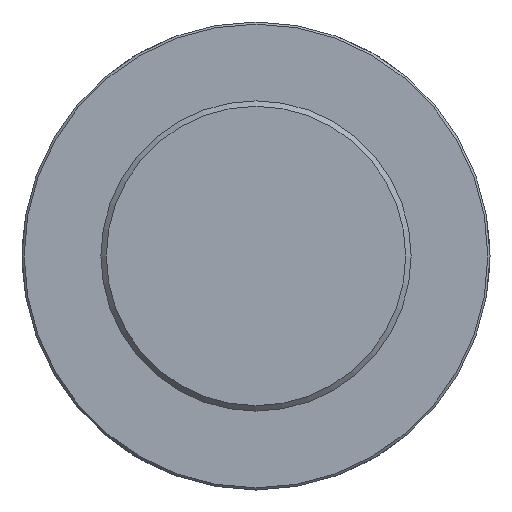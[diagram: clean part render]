
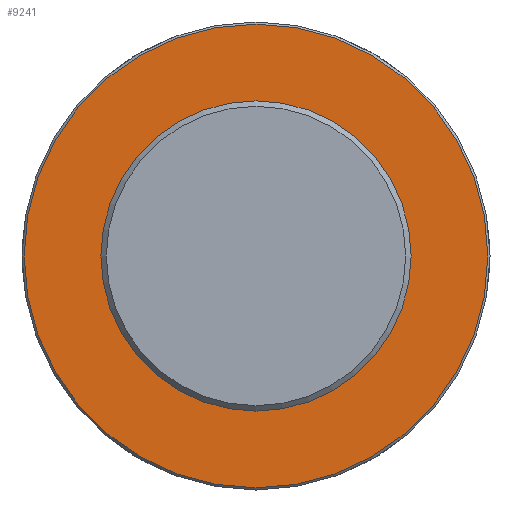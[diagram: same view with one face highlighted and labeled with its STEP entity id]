
A CAD part, front view. The second image highlights one B-rep face of the part: STEP entity #9241.
In plain terms, the highlighted planar face has unit normal (0, -1, 0) as drawn and (0, 1, 0) by its records, which use the part's own axes.
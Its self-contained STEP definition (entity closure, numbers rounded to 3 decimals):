
#73=CIRCLE('',#9649,213.);
#1182=FACE_OUTER_BOUND('',#1745,.T.);
#1745=EDGE_LOOP('',(#8419));
#4485=VERTEX_POINT('',#16301);
#5801=EDGE_CURVE('',#4485,#4485,#73,.T.);
#8419=ORIENTED_EDGE('',*,*,#5801,.F.);
#8752=PLANE('',#9652);
#9241=ADVANCED_FACE('',(#1182),#8752,.T.);
#9649=AXIS2_PLACEMENT_3D('',#16302,#11251,#11252);
#9652=AXIS2_PLACEMENT_3D('',#16540,#11257,#11258);
#11251=DIRECTION('center_axis',(0.,-1.,0.));
#11252=DIRECTION('ref_axis',(1.,0.,0.));
#11257=DIRECTION('center_axis',(0.,1.,0.));
#11258=DIRECTION('ref_axis',(0.,0.,1.));
#16301=CARTESIAN_POINT('',(-213.,195.,0.));
#16302=CARTESIAN_POINT('Origin',(0.,195.,0.));
#16540=CARTESIAN_POINT('Origin',(0.,195.,0.));
